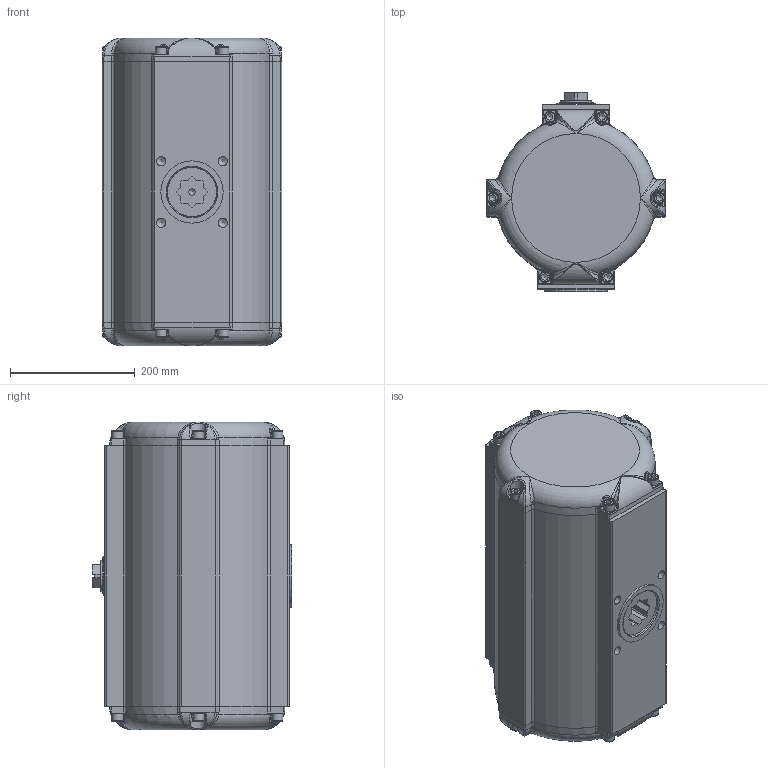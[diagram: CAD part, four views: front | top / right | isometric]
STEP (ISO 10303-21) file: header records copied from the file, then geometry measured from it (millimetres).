
FILE_DESCRIPTION((''),'2;1');
FILE_NAME('C:\Dokumente und Einstellungen\ko-p\Desktop\SAD_42-135°_BR03.stp','2011-02-02T11:34:55',('war'),(''),'Autodesk Inventor 2010','Autodesk Inventor 2010','');
FILE_SCHEMA(('AUTOMOTIVE_DESIGN { 1 0 10303 214 1 1 1 1 }'));
Length unit declared in the file: millimetre
Products named in the file (1): ENG-051473_Konturvereinfachung_1
Bounding box: 288 x 320 x 493.8 mm (x, y, z)
Surface area: 801871.9 mm2 (no closed solid volume)
Topology: 0 solids, 22 shells, 528 faces, 2034 edges, 1449 vertices
Faces by surface type: plane 206, bspline 149, cylinder 120, cone 32, torus 21
Full cylindrical faces by diameter (mm): 18 x12, 37 x1, 49.8 x1, 78 x1, 100 x1, 236 x1
Entity records: 28070 total; most frequent: CARTESIAN_POINT 13013, ORIENTED_EDGE 2931, DIRECTION 2493, EDGE_CURVE 1900, VERTEX_POINT 1404, AXIS2_PLACEMENT_3D 941, EDGE_LOOP 658, B_SPLINE_CURVE_WITH_KNOTS 635
